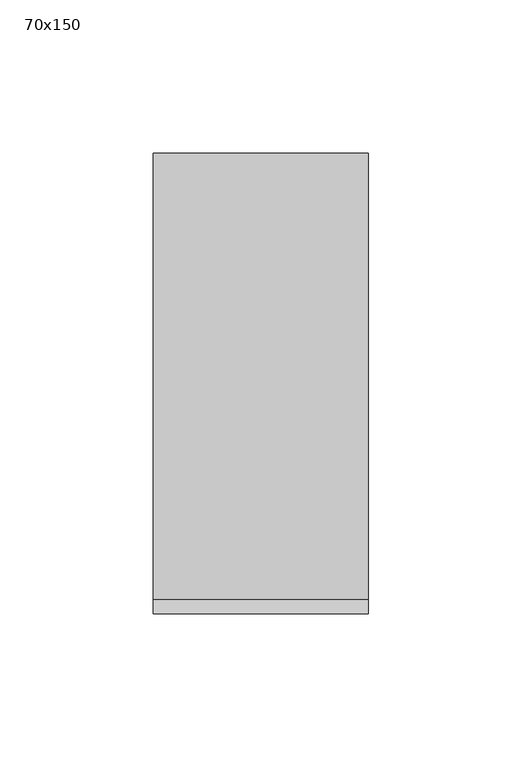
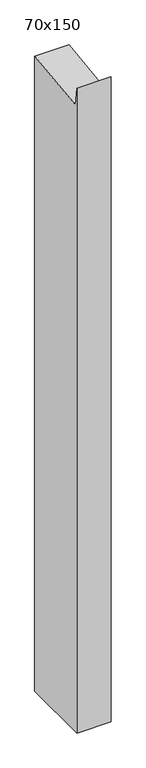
"""IFC4 building model written with IfcOpenShell, lengths in millimetres: member geometry, 長方形のマリオン : 70x150."""

from ifc_helpers import new_model, si_unit, frame, origin, place, context, project, spatial, polyline, outline, extrude, source, transform, mapped, element, save


def member_70x150_2bca83e0(model_context):
    return source(origin(), model_context, "Body", "SweptSolid", [
        extrude(outline(polyline([(-75.0, 30.4702659), (-70.2424427, -8.7721286), (75.0, 8.8363597), (75.0, -1368.9582366), (-75.0, -1368.9582366), (-75.0, 30.4702659)])), frame((-70.0, 0.0, 0.0), z_axis=(1.0, 0.0, 0.0), x_axis=(0.0, 1.0, 0.0)), (0.0, 0.0, 1.0), 70.0),
    ])


if __name__ == "__main__":
    model = new_model("IFC4")
    model_context = context("Model", 3, world=origin())
    ifc_project = project(units=[si_unit("LENGTHUNIT", "METRE", prefix="MILLI")], contexts=[model_context])
    site = spatial("IfcSite", under=ifc_project)
    building = spatial("IfcBuilding", under=site)
    placement = place(None, origin())
    member_70x150_shape = member_70x150_2bca83e0(model_context)
    element("IfcMember", 1, ObjectType="長方形のマリオン : 70x150", at=placement, inside=building, context=model_context, shape_type="MappedRepresentation", body=[
        mapped(member_70x150_shape, transform((0.0, 0.0, 0.0), x_axis=(1.0, 0.0, 0.0), y_axis=(0.0, 1.0, 0.0), z_axis=(0.0, 0.0, 1.0))),
    ])
    save(model, "model.ifc")
